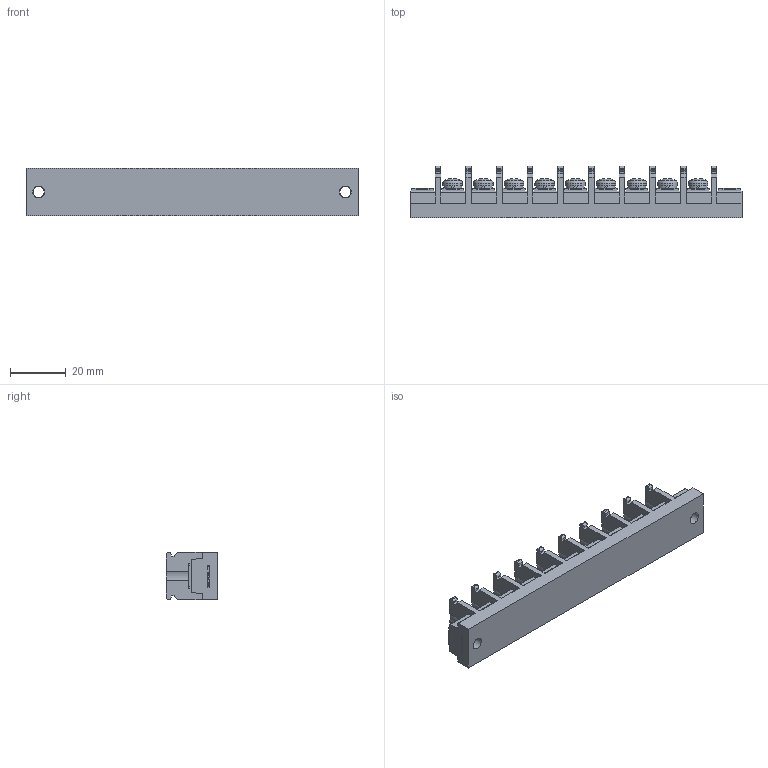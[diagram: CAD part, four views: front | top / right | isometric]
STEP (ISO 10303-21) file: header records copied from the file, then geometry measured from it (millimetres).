
FILE_DESCRIPTION(/* description */ ('Alibre Inc.'),/* implementation_level */ '2;1');
FILE_NAME(/* name */ 'export0',/* time_stamp */ '2015-10-19T19:24:46+09:00',/* author */ (''),/* organization */ (''),/* preprocessor_version */ 'ST-DEVELOPER v14',/* originating_system */ 'Alibre',/* authorisation */ '');
FILE_SCHEMA (('CONFIG_CONTROL_DESIGN'));
Length unit declared in the file: centimetre
Products named in the file (1): ID_1
Bounding box: 119 x 18.5 x 17 mm (x, y, z)
Volume: 21494.9 mm3; surface area: 11880.2 mm2
Topology: 1 solids, 1 shells, 1074 faces, 3005 edges, 1995 vertices
Faces by surface type: plane 750, cylinder 157, bspline 104, cone 36, torus 18, sphere 9
Full cylindrical faces by diameter (mm): 4 x11, 4.2 x2, 6.5 x9, 7 x9
Entity records: 33446 total; most frequent: CARTESIAN_POINT 7172, ORIENTED_EDGE 5872, DIRECTION 4394, EDGE_CURVE 2936, VECTOR 2062, LINE 2062, VERTEX_POINT 1966, AXIS2_PLACEMENT_3D 1536
